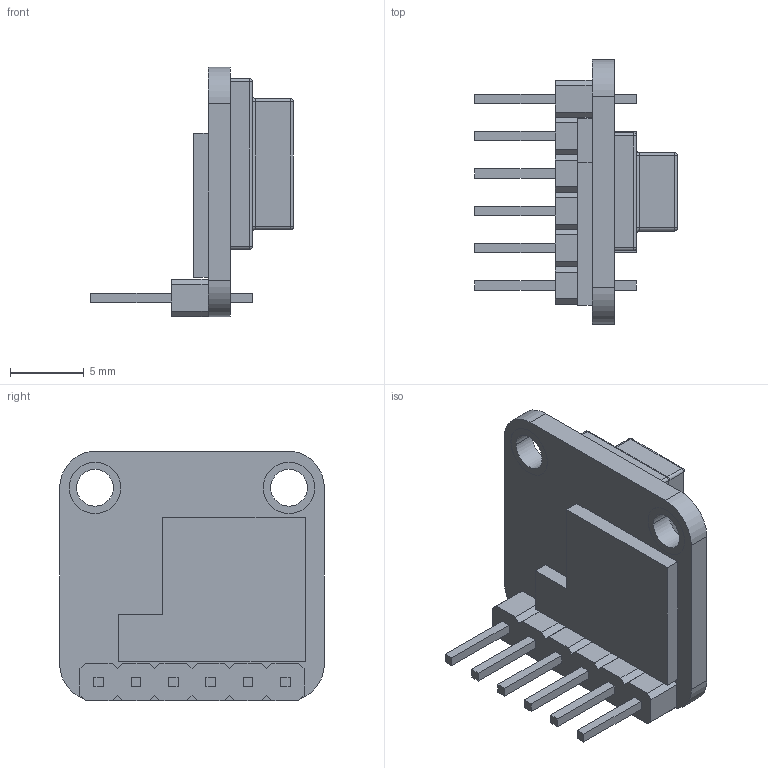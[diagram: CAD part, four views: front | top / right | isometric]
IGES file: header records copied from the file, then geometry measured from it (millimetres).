
Start section: START RECORD GO HERE.
Global section: file name: AMG8833.igs; native system: DASSAULT SYSTEMES CATIA V5 R21 - www.3ds.com; preprocessor: CATIA Version 5 Release 21 ; author: Fabien; organization: PC-Fabien; date: 20200318.193540; units: millimetre
Bounding box: 13.8 x 18 x 17 mm (x, y, z)
Surface area: 1594.8 mm2 (no closed solid volume)
Topology: 0 solids, 0 shells, 242 faces, 1144 edges, 1136 vertices
Faces by surface type: plane 146, revolution 96
